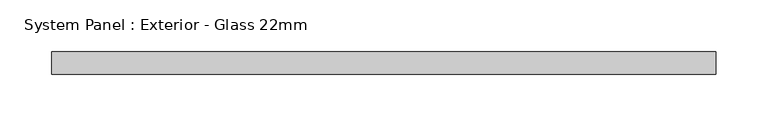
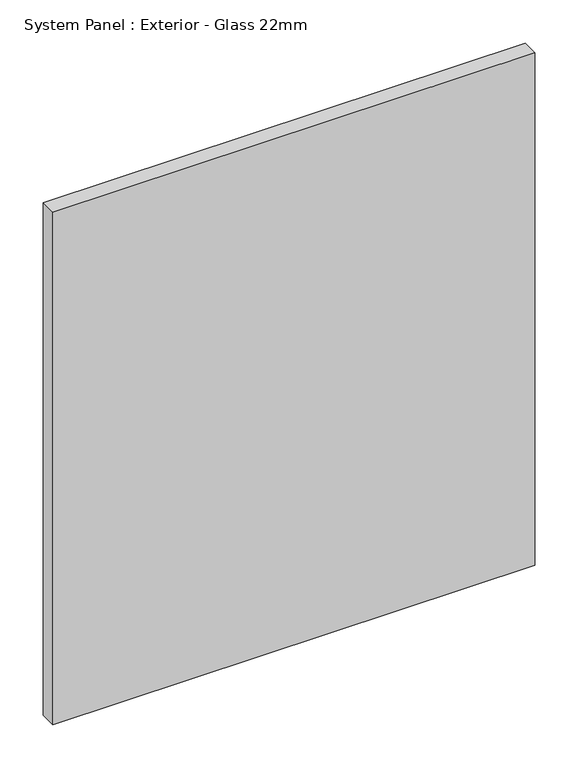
"""IFC4 building model written with IfcOpenShell, lengths in millimetres: plate geometry, System Panel : Exterior - Glass 22mm."""

from ifc_helpers import new_model, si_unit, origin, origin_with_axes, place, context, project, spatial, polyline, outline, extrude, source, transform, mapped, element, save


def system_panel_exterior_glass_22mm_f0f81b33(model_context):
    return source(origin(), model_context, "Body", "SweptSolid", [
        extrude(outline(polyline([(322.5, -50.0), (-322.5, -50.0), (-322.5, -28.0), (322.5, -28.0), (322.5, -50.0)])), origin_with_axes(), (0.0, 0.0, 1.0), 725.0),
    ])


if __name__ == "__main__":
    model = new_model("IFC4")
    model_context = context("Model", 3, world=origin())
    ifc_project = project(units=[si_unit("LENGTHUNIT", "METRE", prefix="MILLI")], contexts=[model_context])
    site = spatial("IfcSite", under=ifc_project)
    building = spatial("IfcBuilding", under=site)
    placement = place(None, origin())
    system_panel_exterior_glass_22mm_shape = system_panel_exterior_glass_22mm_f0f81b33(model_context)
    element("IfcPlate", 1, ObjectType="System Panel : Exterior - Glass 22mm", at=placement, inside=building, context=model_context, shape_type="MappedRepresentation", body=[
        mapped(system_panel_exterior_glass_22mm_shape, transform((0.0, 0.0, 0.0), x_axis=(1.0, 0.0, 0.0), y_axis=(0.0, 1.0, 0.0), z_axis=(0.0, 0.0, 1.0))),
    ])
    save(model, "model.ifc")
